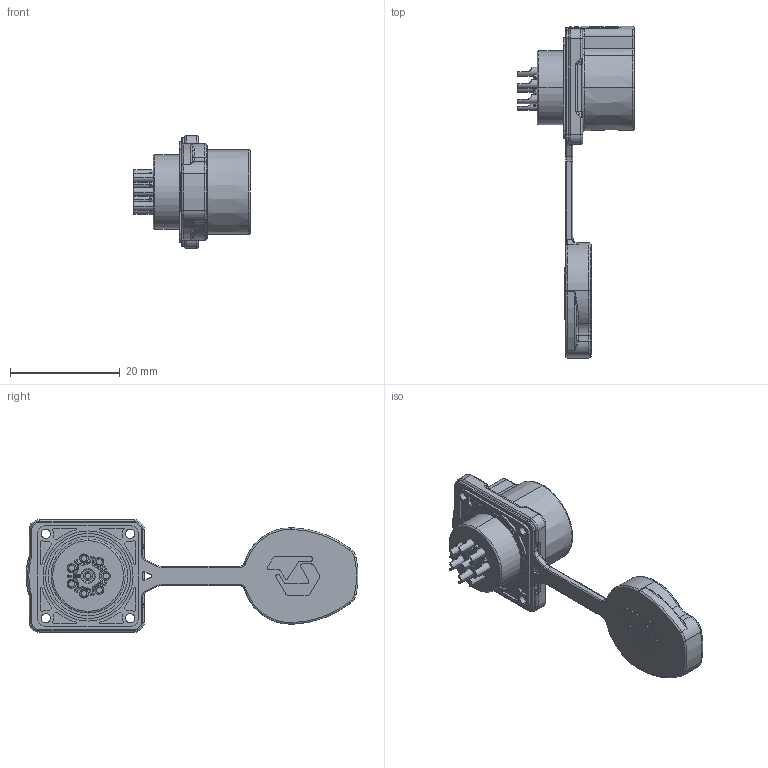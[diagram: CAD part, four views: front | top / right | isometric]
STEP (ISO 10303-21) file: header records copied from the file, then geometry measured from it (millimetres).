
FILE_DESCRIPTION (( 'STEP AP203' ), '1' );
FILE_NAME ('PLG14-8郋侐謂假蚾脣釱.STEP', '2025-09-22T03:22:51', ( '' ), ( '' ), 'SwSTEP 2.0', 'SolidWorks 2024', '' );
FILE_SCHEMA (( 'CONFIG_CONTROL_DESIGN' ));
Length unit declared in the file: millimetre
Products named in the file (1): PLG14-8芯四孔安装插座
Bounding box: 21.2 x 60.57 x 20.5 mm (x, y, z)
Volume: 4021.1 mm3; surface area: 5115.1 mm2
Topology: 1 solids, 1 shells, 1502 faces, 3735 edges, 2288 vertices
Faces by surface type: cylinder 541, plane 410, torus 232, bspline 209, cone 87, sphere 23
Entity records: 53269 total; most frequent: CARTESIAN_POINT 18653, ORIENTED_EDGE 7390, DIRECTION 7086, EDGE_CURVE 3695, AXIS2_PLACEMENT_3D 2773, VERTEX_POINT 2282, EDGE_LOOP 1607, LINE 1540
